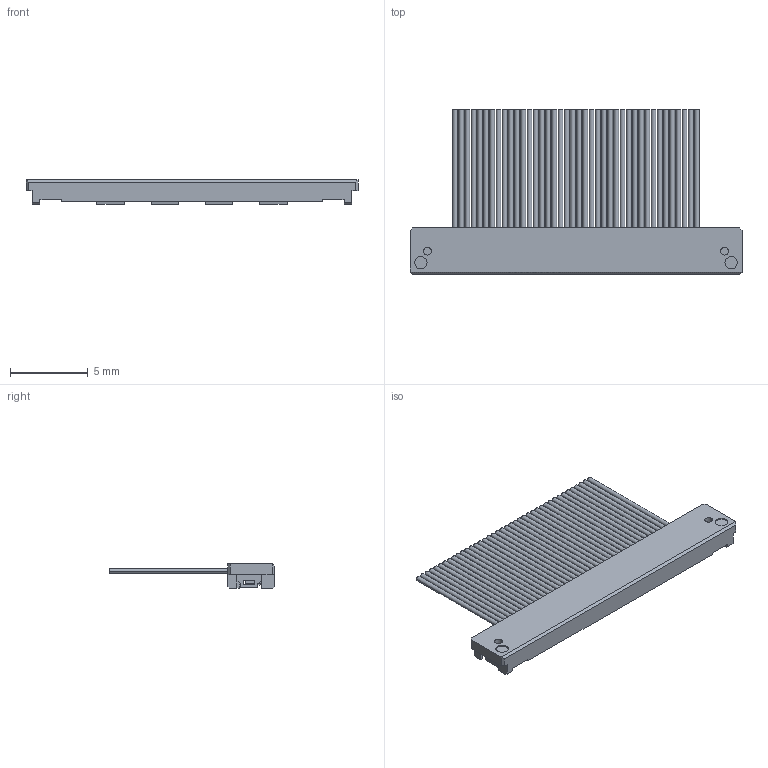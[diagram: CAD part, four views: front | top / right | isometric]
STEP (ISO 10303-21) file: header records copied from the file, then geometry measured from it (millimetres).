
FILE_DESCRIPTION(('CoCreate Modeling STEP Export'),'2;1');
FILE_NAME('P39911_USLS20-40.stp','2017-11-22T18:15:22',(''),(''),'CoCreate Modeling STEP processor for AP214 (Solid Model)','CoCreate Modeling 17.0B 09-Oct-2010 (C) Parametric Technology GmbH','');
FILE_SCHEMA(('AUTOMOTIVE_DESIGN { 1 0 10303 214 1 1 1 1 }'));
Length unit declared in the file: millimetre
Products named in the file (2): USLS20-40
Assembly tree (1 placements, depth 2):
  USLS20-40
    USLS20-40
Bounding box: 21.4 x 10.63 x 1.58 mm (x, y, z)
Volume: 87.5 mm3; surface area: 539.8 mm2
Topology: 1 solids, 1 shells, 1046 faces, 2690 edges, 1736 vertices
Faces by surface type: plane 740, cylinder 226, torus 80
Entity records: 29272 total; most frequent: ORIENTED_EDGE 5380, CARTESIAN_POINT 4980, DIRECTION 4629, EDGE_CURVE 2690, VECTOR 1859, LINE 1859, VERTEX_POINT 1736, AXIS2_PLACEMENT_3D 1385
